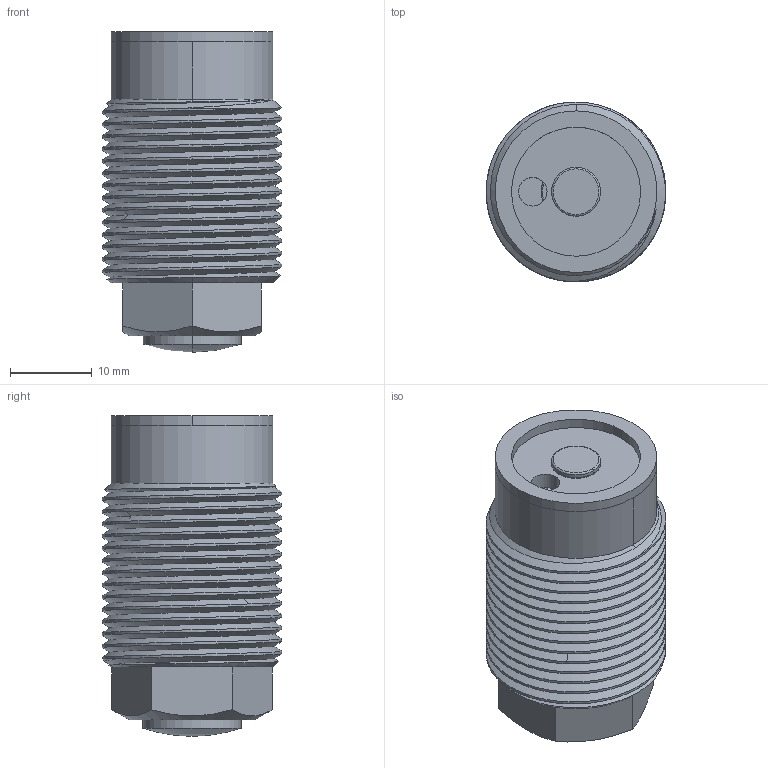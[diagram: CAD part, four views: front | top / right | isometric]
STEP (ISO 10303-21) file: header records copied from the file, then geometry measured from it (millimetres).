
FILE_DESCRIPTION((''),'2;1');
FILE_NAME('CTC-12A_ASM','2010-01-13T',('Administrator'),(''),'PRO/ENGINEER BY PARAMETRIC TECHNOLOGY CORPORATION, 2007170','PRO/ENGINEER BY PARAMETRIC TECHNOLOGY CORPORATION, 2007170','');
FILE_SCHEMA(('CONFIG_CONTROL_DESIGN'));
Length unit declared in the file: millimetre
Products named in the file (6): CTC-12ABT; CTC-12AHSG; CTC-12AHG; CTC-12ADP; CTC-12AMD; CTC-12A_ASM
Assembly tree (5 placements, depth 2):
  CTC-12A_ASM
    CTC-12ABT
    CTC-12AHSG
    CTC-12AHG
    CTC-12ADP
    CTC-12AMD
Bounding box: 21.98 x 22 x 39.25 mm (x, y, z)
Volume: 10027.5 mm3; surface area: 9460.7 mm2
Topology: 5 solids, 5 shells, 127 faces, 307 edges, 198 vertices
Faces by surface type: cylinder 75, plane 26, bspline 14, cone 6, torus 4, sphere 2
Entity records: 9560 total; most frequent: CARTESIAN_POINT 6638, ORIENTED_EDGE 610, DIRECTION 519, EDGE_CURVE 305, AXIS2_PLACEMENT_3D 207, VERTEX_POINT 198, EDGE_LOOP 145, FACE_OUTER_BOUND 127
